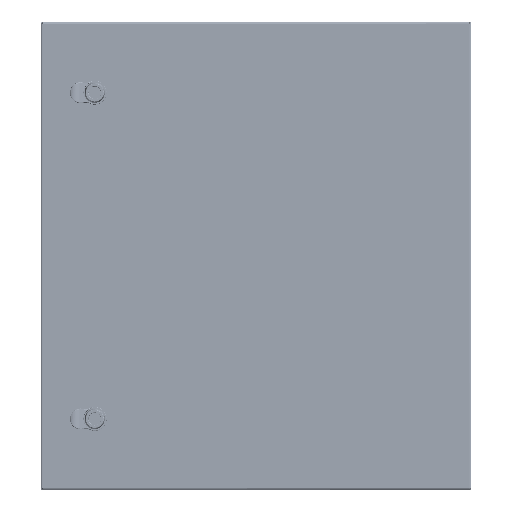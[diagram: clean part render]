
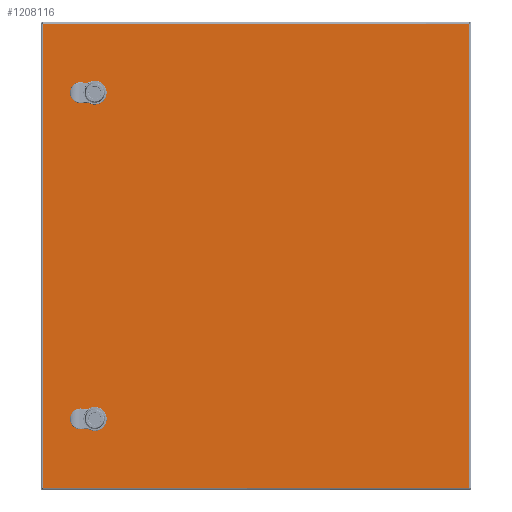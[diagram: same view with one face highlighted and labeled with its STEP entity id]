
A CAD part, top view. The second image highlights one B-rep face of the part: STEP entity #1208116.
In plain terms, the highlighted planar face has unit normal (0, 0, 1).
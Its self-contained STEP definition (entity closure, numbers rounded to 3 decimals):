
#1202271=CARTESIAN_POINT(' ',(321.331,321.089,484.665));
#1202272=VERTEX_POINT(' ',#1202271);
#1202901=CARTESIAN_POINT(' ',(321.331,-318.311,484.665));
#1202902=VERTEX_POINT(' ',#1202901);
#1203746=CARTESIAN_POINT(' ',(321.331,321.089,484.665));
#1203751=DIRECTION(' ',(0.,-1.,0.));
#1203756=VECTOR(' ',#1203751,1.);
#1203761=LINE('',#1203746,#1203756);
#1203766=EDGE_CURVE(' ',#1202272,#1202902,#1203761,.T.);
#1205921=CARTESIAN_POINT(' ',(-267.069,-318.311,484.665));
#1205922=VERTEX_POINT(' ',#1205921);
#1206321=CARTESIAN_POINT(' ',(-267.069,321.089,484.665));
#1206322=VERTEX_POINT(' ',#1206321);
#1207986=DIRECTION(' ',(-0.,-0.,1.));
#1207991=CARTESIAN_POINT(' ',(321.331,-318.311,484.665));
#1207996=DIRECTION(' ',(0.,1.,0.));
#1208001=AXIS2_PLACEMENT_3D(' ',#1207991,#1207986,#1207996);
#1208006=PLANE('NONE',#1208001);
#1208011=CARTESIAN_POINT(' ',(-267.069,-318.311,484.665));
#1208016=DIRECTION(' ',(1.,0.,0.));
#1208021=VECTOR(' ',#1208016,1.);
#1208026=LINE('',#1208011,#1208021);
#1208031=EDGE_CURVE(' ',#1205922,#1202902,#1208026,.T.);
#1208036=ORIENTED_EDGE(' ',*,*,#1208031,.T.);
#1208041=ORIENTED_EDGE(' ',*,*,#1203766,.F.);
#1208046=CARTESIAN_POINT(' ',(321.331,321.089,484.665));
#1208051=DIRECTION(' ',(-1.,0.,0.));
#1208056=VECTOR(' ',#1208051,1.);
#1208061=LINE('',#1208046,#1208056);
#1208066=EDGE_CURVE(' ',#1202272,#1206322,#1208061,.T.);
#1208071=ORIENTED_EDGE(' ',*,*,#1208066,.T.);
#1208076=CARTESIAN_POINT(' ',(-267.069,321.089,484.665));
#1208081=DIRECTION(' ',(0.,-1.,0.));
#1208086=VECTOR(' ',#1208081,1.);
#1208091=LINE('',#1208076,#1208086);
#1208096=EDGE_CURVE(' ',#1206322,#1205922,#1208091,.T.);
#1208101=ORIENTED_EDGE(' ',*,*,#1208096,.T.);
#1208106=EDGE_LOOP(' ',(#1208036,#1208041,#1208071,#1208101));
#1208111=FACE_OUTER_BOUND(' ',#1208106,.T.);
#1208116=ADVANCED_FACE('NONE',(#1208111),#1208006,.T.);
